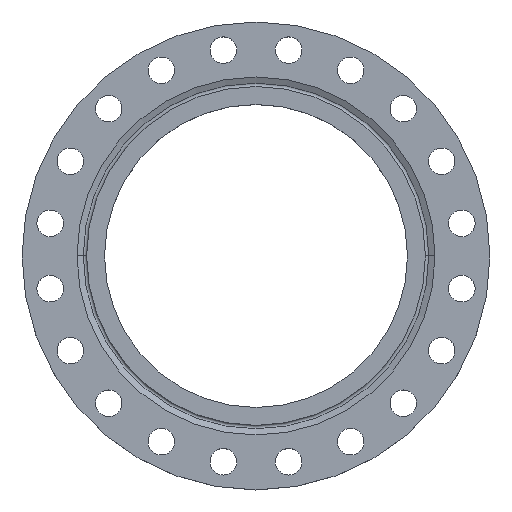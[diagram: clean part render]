
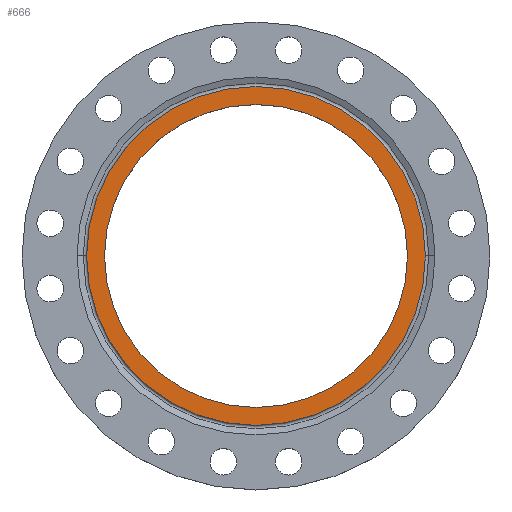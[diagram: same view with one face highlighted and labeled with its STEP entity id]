
A CAD part, top view. The second image highlights one B-rep face of the part: STEP entity #666.
In plain terms, the highlighted planar face has unit normal (0, 0, 1).
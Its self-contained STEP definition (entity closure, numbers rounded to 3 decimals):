
#10 = DIRECTION ( 'NONE',  ( 1., 0., 0. ) ) ;
#39 = DIRECTION ( 'NONE',  ( -1., 0., 0. ) ) ;
#40 = DIRECTION ( 'NONE',  ( 0., 0., -1. ) ) ;
#41 = CARTESIAN_POINT ( 'NONE',  ( 0., 0., 0. ) ) ;
#223 = AXIS2_PLACEMENT_3D ( 'NONE', #971, #1644, #10 ) ;
#244 = CARTESIAN_POINT ( 'NONE',  ( 248., 0., 0. ) ) ;
#336 = DIRECTION ( 'NONE',  ( 1., 0., 0. ) ) ;
#339 = DIRECTION ( 'NONE',  ( 0., 0., 1. ) ) ;
#343 = CARTESIAN_POINT ( 'NONE',  ( 0., 0., 0. ) ) ;
#357 = DIRECTION ( 'NONE',  ( -1., 0., 0. ) ) ;
#358 = DIRECTION ( 'NONE',  ( 0., 0., -1. ) ) ;
#360 = CARTESIAN_POINT ( 'NONE',  ( 0., 0., 0. ) ) ;
#442 = CARTESIAN_POINT ( 'NONE',  ( 221.752, 0., 0. ) ) ;
#502 = AXIS2_PLACEMENT_3D ( 'NONE', #719, #718, #716 ) ;
#666 = ADVANCED_FACE ( 'NONE', ( #722, #721 ), #720, .T. ) ;
#716 = DIRECTION ( 'NONE',  ( 1., 0., 0. ) ) ;
#718 = DIRECTION ( 'NONE',  ( 0., 0., 1. ) ) ;
#719 = CARTESIAN_POINT ( 'NONE',  ( 0., 0., 0. ) ) ;
#720 = PLANE ( 'NONE',  #502 ) ;
#721 = FACE_OUTER_BOUND ( 'NONE', #1823, .T. ) ;
#722 = FACE_BOUND ( 'NONE', #1737, .T. ) ;
#971 = CARTESIAN_POINT ( 'NONE',  ( 0., 0., 0. ) ) ;
#1169 = VERTEX_POINT ( 'NONE', #442 ) ;
#1259 = EDGE_CURVE ( 'NONE', #1459, #1778, #1666, .T. ) ;
#1292 = EDGE_CURVE ( 'NONE', #1169, #1891, #1649, .T. ) ;
#1388 = ORIENTED_EDGE ( 'NONE', *, *, #1259, .F. ) ;
#1391 = ORIENTED_EDGE ( 'NONE', *, *, #1654, .F. ) ;
#1393 = ORIENTED_EDGE ( 'NONE', *, *, #1720, .F. ) ;
#1395 = ORIENTED_EDGE ( 'NONE', *, *, #1292, .F. ) ;
#1459 = VERTEX_POINT ( 'NONE', #244 ) ;
#1491 = CIRCLE ( 'NONE', #1528, 248. ) ;
#1528 = AXIS2_PLACEMENT_3D ( 'NONE', #41, #40, #39 ) ;
#1606 = CIRCLE ( 'NONE', #223, 221.752 ) ;
#1616 = CARTESIAN_POINT ( 'NONE',  ( -221.752, 0., 0. ) ) ;
#1644 = DIRECTION ( 'NONE',  ( 0., 0., 1. ) ) ;
#1645 = AXIS2_PLACEMENT_3D ( 'NONE', #343, #339, #336 ) ;
#1649 = CIRCLE ( 'NONE', #1645, 221.752 ) ;
#1654 = EDGE_CURVE ( 'NONE', #1778, #1459, #1491, .T. ) ;
#1663 = AXIS2_PLACEMENT_3D ( 'NONE', #360, #358, #357 ) ;
#1666 = CIRCLE ( 'NONE', #1663, 248. ) ;
#1719 = CARTESIAN_POINT ( 'NONE',  ( -248., 0., 0. ) ) ;
#1720 = EDGE_CURVE ( 'NONE', #1891, #1169, #1606, .T. ) ;
#1737 = EDGE_LOOP ( 'NONE', ( #1395, #1393 ) ) ;
#1778 = VERTEX_POINT ( 'NONE', #1719 ) ;
#1823 = EDGE_LOOP ( 'NONE', ( #1391, #1388 ) ) ;
#1891 = VERTEX_POINT ( 'NONE', #1616 ) ;
